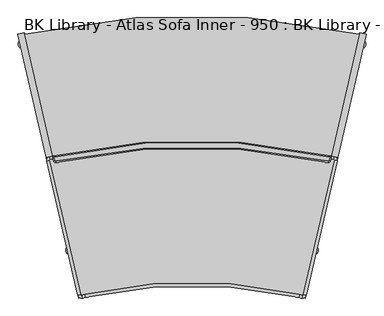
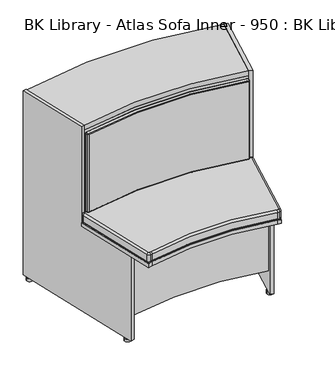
"""IFC4 building model written with IfcOpenShell, lengths in millimetres: furniture geometry, BK Library - Atlas Sofa Inner - 950 : BK Library - Atlas Sofa Inner - 950."""

from ifc_helpers import new_model, si_unit, point, frame, frame_2d, origin, origin_with_axes, place, context, project, spatial, polyline, circle_curve, ellipse_curve, trimmed, segment, composite_curve, outline, extrude, source, transform, mapped, element, save
from ifc_brep_helpers import plane_surface, cylinder_surface, revolved_surface, advanced_brep


def bk_library_atlas_sofa_inner_950_bk_library_atlas_sofa_inner_ff10e637(model_context):
    return source(origin(), model_context, "Body", "SolidModel", [
        extrude(outline(composite_curve([segment(trimmed(circle_curve(frame_2d((0.0, -1777.8812307)), 2148.52767), [point((-474.1962162, 317.663829))], [point((474.1962162, 317.663829))], False, "CARTESIAN"), True, "CONTINUOUS"), segment(polyline([(474.1962162, 317.663829), (394.6538473, -27.2840099)]), True, "CONTINUOUS"), segment(trimmed(circle_curve(frame_2d((0.0, -1738.7617261)), 1756.3905125), [point((394.6538473, -27.2840099))], [point((-394.6538473, -27.2840099))], True, "CARTESIAN"), True, "CONTINUOUS"), segment(polyline([(-394.6538473, -27.2840099), (-474.1962162, 317.663829)]), True, "CONTINUOUS")], self_intersect=False)), frame((0.0, 0.0, 925.6999998), z_axis=(0.0, 0.0, 1.0), x_axis=(1.0, 0.0, 0.0)), (0.0, 0.0, 1.0), 24.0),
        advanced_brep(
        [(-387.5289282, -41.0616278, 912.6999998), (-386.337373, -41.8193482, 912.6999998), (386.322412, -41.8102681, 912.6999998), (387.5138106, -41.053138, 912.6999998), (389.7114211, -31.2769641, 912.6999998), (388.9577264, -30.0825885, 912.6999998), (-388.967965, -30.0849192, 912.6999998), (-389.7217875, -31.2786982, 912.6999998), (-386.337373, -41.8193482, 512.6999998), (-387.5289282, -41.0616278, 512.6999998), (-389.7217875, -31.2786982, 512.6999998), (-388.967965, -30.0849192, 512.6999998), (388.9577264, -30.0825885, 512.6999998), (389.7114211, -31.2769641, 512.6999998), (387.5138106, -41.053138, 512.6999998), (386.322412, -41.8102681, 512.6999998), (-391.4320751, -41.9365244, 908.6999998), (-393.6249345, -32.1535948, 908.6999998), (-393.6249345, -32.1535948, 516.6999998), (-391.4320751, -41.9365244, 516.6999998), (-385.4742994, -45.7251264, 908.6999998), (-385.4742994, -45.7251264, 516.6999998), (385.4594302, -45.7160667, 908.6999998), (385.4594302, -45.7160667, 516.6999998), (391.416423, -41.9304159, 908.6999998), (391.416423, -41.9304159, 516.6999998), (393.6140335, -32.1542421, 908.6999998), (393.6140335, -32.1542421, 516.6999998), (-389.8558218, -26.1846999, 908.6999998), (389.8455598, -26.1823639, 908.6999998), (389.8455598, -26.1823639, 516.6999998), (-389.8558218, -26.1846999, 516.6999998)],
        [
            (0, 1, circle_curve(frame((-386.5531414, -40.8429036, 912.6999998), z_axis=(0.0, 0.0, 1.0), x_axis=(-0.9757867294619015, -0.21872416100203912, 0.0)), 1.0)),
            (1, 2, circle_curve(frame((0.0130662, -1790.2207372, 912.6999998), z_axis=(0.0, 0.0, -1.0), x_axis=(-0.21576840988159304, 0.9764445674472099, 0.0)), 1790.579258)),
            (2, 3, circle_curve(frame((386.5381575, -40.8338185, 912.6999998), z_axis=(0.0, 0.0, 1.0), x_axis=(-0.21574546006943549, -0.9764496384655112, 0.0)), 1.0)),
            (3, 4),
            (4, 5, circle_curve(frame((388.735768, -31.0576446, 912.6999998), z_axis=(0.0, 0.0, 1.0), x_axis=(0.9756530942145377, -0.21931949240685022, 0.0)), 1.0)),
            (5, 6, circle_curve(frame((0.0, -1738.7617261, 912.6999998), z_axis=(0.0, 0.0, 1.0), x_axis=(0.2219583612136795, 0.9750561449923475, 0.0)), 1752.3905125)),
            (6, 7, circle_curve(frame((-388.7460008, -31.059974, 912.6999998), z_axis=(0.0, 0.0, 1.0), x_axis=(-0.22196420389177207, 0.9750548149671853, 0.0)), 1.0)),
            (7, 0),
            (8, 9, circle_curve(frame((-386.5531414, -40.8429036, 512.6999998), z_axis=(0.0, 0.0, -1.0), x_axis=(-0.9757867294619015, -0.21872416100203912, 0.0)), 1.0)),
            (9, 10),
            (10, 11, circle_curve(frame((-388.7460008, -31.059974, 512.6999998), z_axis=(0.0, 0.0, -1.0), x_axis=(-0.22196420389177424, 0.9750548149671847, 0.0)), 1.0)),
            (11, 12, circle_curve(frame((0.0, -1738.7617261, 512.6999998), z_axis=(0.0, 0.0, -1.0), x_axis=(0.2219583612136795, 0.9750561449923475, 0.0)), 1752.3905125)),
            (12, 13, circle_curve(frame((388.735768, -31.0576446, 512.6999998), z_axis=(0.0, 0.0, -1.0), x_axis=(0.9756530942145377, -0.21931949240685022, 0.0)), 1.0)),
            (13, 14),
            (14, 15, circle_curve(frame((386.5381575, -40.8338185, 512.6999998), z_axis=(0.0, 0.0, -1.0), x_axis=(-0.21574546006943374, -0.9764496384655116, 0.0)), 1.0)),
            (15, 8, circle_curve(frame((0.0130662, -1790.2207372, 512.6999998), z_axis=(0.0, 0.0, 1.0), x_axis=(-0.21576840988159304, 0.9764445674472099, 0.0)), 1790.579258)),
            (16, 17),
            (17, 18),
            (18, 19),
            (19, 16),
            (20, 16, circle_curve(frame((-386.5531414, -40.8429036, 908.6999998), z_axis=(0.0, 0.0, -1.0), x_axis=(1.0, 0.0, 0.0)), 5.0)),
            (19, 21, circle_curve(frame((-386.5531414, -40.8429036, 516.6999998), z_axis=(0.0, 0.0, 1.0), x_axis=(1.0, 0.0, 0.0)), 5.0)),
            (21, 20),
            (22, 20, circle_curve(frame((0.0130662, -1790.2207372, 908.6999998), z_axis=(0.0, 0.0, 1.0), x_axis=(1.0, 0.0, 0.0)), 1786.579258)),
            (21, 23, circle_curve(frame((0.0130662, -1790.2207372, 516.6999998), z_axis=(0.0, 0.0, -1.0), x_axis=(1.0, 0.0, 0.0)), 1786.579258)),
            (23, 22),
            (24, 22, circle_curve(frame((386.5381575, -40.8338185, 908.6999998), z_axis=(0.0, 0.0, -1.0), x_axis=(1.0, 0.0, 0.0)), 5.0)),
            (23, 25, circle_curve(frame((386.5381575, -40.8338185, 516.6999998), z_axis=(0.0, 0.0, 1.0), x_axis=(1.0, 0.0, 0.0)), 5.0)),
            (25, 24),
            (26, 24),
            (25, 27),
            (27, 26),
            (28, 29, circle_curve(frame((0.0, -1738.7617261, 908.6999998), z_axis=(0.0, 0.0, -1.0), x_axis=(1.0, 0.0, 0.0)), 1756.3905125)),
            (29, 30),
            (30, 31, circle_curve(frame((0.0, -1738.7617261, 516.6999998), z_axis=(0.0, 0.0, 1.0), x_axis=(1.0, 0.0, 0.0)), 1756.3905125)),
            (31, 28),
            (17, 28, circle_curve(frame((-388.7460008, -31.059974, 908.6999998), z_axis=(0.0, 0.0, -1.0), x_axis=(1.0, 0.0, 0.0)), 5.0)),
            (31, 18, circle_curve(frame((-388.7460008, -31.059974, 516.6999998), z_axis=(0.0, 0.0, 1.0), x_axis=(1.0, 0.0, 0.0)), 5.0)),
            (29, 26, circle_curve(frame((388.735768, -31.0576446, 908.6999998), z_axis=(0.0, 0.0, -1.0), x_axis=(1.0, 0.0, 0.0)), 5.0)),
            (27, 30, circle_curve(frame((388.735768, -31.0576446, 516.6999998), z_axis=(0.0, 0.0, 1.0), x_axis=(1.0, 0.0, 0.0)), 5.0)),
            (20, 1, circle_curve(frame((-386.337373, -41.8193482, 908.6999998), z_axis=(-0.9764445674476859, -0.21576840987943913, 0.0), x_axis=(-0.21576840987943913, 0.9764445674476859, 0.0)), 4.0)),
            (0, 16, circle_curve(frame((-387.5289282, -41.0616278, 908.6999998), z_axis=(0.21872416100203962, -0.9757867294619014, 0.0), x_axis=(0.9757867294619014, 0.21872416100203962, 0.0)), 4.0)),
            (22, 2, circle_curve(frame((386.322412, -41.8102681, 908.6999998), z_axis=(-0.9764496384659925, 0.21574546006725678, 0.0), x_axis=(0.21574546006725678, 0.9764496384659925, 0.0)), 4.0)),
            (24, 3, circle_curve(frame((387.5138106, -41.053138, 908.6999998), z_axis=(-0.21931949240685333, -0.975653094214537, 0.0), x_axis=(-0.975653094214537, 0.21931949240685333, 0.0)), 4.0)),
            (26, 4, circle_curve(frame((389.7114211, -31.2769641, 908.6999998), z_axis=(-0.2193194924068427, -0.9756530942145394, 0.0), x_axis=(-0.9756530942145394, 0.2193194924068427, 0.0)), 4.0)),
            (29, 5, circle_curve(frame((388.9577264, -30.0825885, 908.6999998), z_axis=(0.9750561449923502, -0.2219583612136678, 0.0), x_axis=(-0.2219583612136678, -0.9750561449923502, 0.0)), 4.0)),
            (28, 6, circle_curve(frame((-388.967965, -30.0849192, 908.6999998), z_axis=(0.9750548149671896, 0.22196420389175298, 0.0), x_axis=(0.22196420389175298, -0.9750548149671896, 0.0)), 4.0)),
            (17, 7, circle_curve(frame((-389.7217875, -31.2786982, 908.6999998), z_axis=(-0.2187241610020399, 0.9757867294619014, 0.0), x_axis=(0.9757867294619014, 0.2187241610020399, 0.0)), 4.0)),
            (8, 21, circle_curve(frame((-386.337373, -41.8193482, 516.6999998), z_axis=(-0.9764445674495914, -0.21576840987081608, 0.0), x_axis=(-0.21576840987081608, 0.9764445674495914, 0.0)), 4.0)),
            (19, 9, circle_curve(frame((-387.5289282, -41.0616278, 516.6999998), z_axis=(0.21872416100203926, -0.9757867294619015, 0.0), x_axis=(0.9757867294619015, 0.21872416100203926, 0.0)), 4.0)),
            (15, 23, circle_curve(frame((386.322412, -41.8102681, 516.6999998), z_axis=(-0.9764496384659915, 0.2157454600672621, 0.0), x_axis=(0.2157454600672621, 0.9764496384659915, 0.0)), 4.0)),
            (14, 25, circle_curve(frame((387.5138106, -41.053138, 516.6999998), z_axis=(-0.21931949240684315, -0.9756530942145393, 0.0), x_axis=(-0.9756530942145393, 0.21931949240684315, 0.0)), 4.0)),
            (13, 27, circle_curve(frame((389.7114211, -31.2769641, 516.6999998), z_axis=(-0.21931949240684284, -0.9756530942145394, 0.0), x_axis=(-0.9756530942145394, 0.21931949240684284, 0.0)), 4.0)),
            (12, 30, circle_curve(frame((388.9577264, -30.0825885, 516.6999998), z_axis=(0.9750561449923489, -0.22195836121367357, 0.0), x_axis=(-0.22195836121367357, -0.9750561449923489, 0.0)), 4.0)),
            (11, 31, circle_curve(frame((-388.967965, -30.0849192, 516.6999998), z_axis=(0.9750548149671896, 0.22196420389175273, 0.0), x_axis=(0.22196420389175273, -0.9750548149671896, 0.0)), 4.0)),
            (10, 18, circle_curve(frame((-389.7217875, -31.2786982, 516.6999998), z_axis=(-0.21872416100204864, 0.9757867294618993, 0.0), x_axis=(0.9757867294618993, 0.21872416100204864, 0.0)), 4.0)),
        ],
        [
            plane_surface(frame((-383.7460008, -31.059974, 912.6999998), z_axis=(0.0, 0.0, 1.0), x_axis=(0.0, 1.0, 0.0))),
            plane_surface(frame((-383.7460008, -31.059974, 512.6999998), z_axis=(0.0, 0.0, -1.0), x_axis=(0.0, -1.0, 0.0))),
            plane_surface(frame((-393.6249345, -32.1535948, 912.6999998), z_axis=(-0.9757867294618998, -0.21872416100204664, 0.0), x_axis=(0.0, 0.0, -1.0))),
            cylinder_surface(frame((-386.5531414, -40.8429036, 512.6999998), z_axis=(0.0, 0.0, 1.0), x_axis=(1.0, 0.0, 0.0)), 5.0),
            revolved_surface(polyline([(1786.5923242, -1790.2207372, 516.6999998), (1786.5923242, -1790.2207372, 908.6999998)]), (0.0130662, -1790.2207372, 512.6999998), (0.0, 0.0, -1.0)),
            cylinder_surface(frame((386.5381575, -40.8338185, 512.6999998), z_axis=(0.0, 0.0, 1.0), x_axis=(1.0, 0.0, 0.0)), 5.0),
            plane_surface(frame((391.416423, -41.9304159, 912.6999998), z_axis=(0.9756530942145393, -0.2193194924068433, 0.0), x_axis=(0.0, 0.0, -1.0))),
            cylinder_surface(frame((0.0, -1738.7617261, 512.6999998), z_axis=(0.0, 0.0, 1.0), x_axis=(1.0, 0.0, 0.0)), 1756.3905125),
            cylinder_surface(frame((-388.7460008, -31.059974, 512.6999998), z_axis=(0.0, 0.0, 1.0), x_axis=(1.0, 0.0, 0.0)), 5.0),
            cylinder_surface(frame((388.735768, -31.0576446, 512.6999998), z_axis=(0.0, 0.0, 1.0), x_axis=(1.0, 0.0, 0.0)), 5.0),
            revolved_surface(trimmed(ellipse_curve(frame((-387.5289282, -41.0616278, 908.6999998), z_axis=(-0.21872416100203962, 0.9757867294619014, 0.0), x_axis=(0.9757867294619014, 0.21872416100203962, 0.0)), 4.0, 4.0), [point((-391.4320751, -41.9365244, 908.6999998))], [point((-387.5289282, -41.0616278, 912.6999998))], True, "CARTESIAN"), (-386.5531414, -40.8429036, 0.0), (0.0, 0.0, 1.0)),
            revolved_surface(trimmed(ellipse_curve(frame((-386.337373, -41.8193482, 908.6999998), z_axis=(-0.9764445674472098, -0.21576840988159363, 0.0), x_axis=(-0.21576840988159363, 0.9764445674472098, 0.0)), 4.0, 4.0), [point((-385.4742994, -45.7251264, 908.6999998))], [point((-386.337373, -41.8193482, 912.6999998))], True, "CARTESIAN"), (0.0130662, -1790.2207372, 0.0), (0.0, 0.0, -1.0)),
            revolved_surface(trimmed(ellipse_curve(frame((386.322412, -41.8102681, 908.6999998), z_axis=(-0.9764496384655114, 0.2157454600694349, 0.0), x_axis=(0.2157454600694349, 0.9764496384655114, 0.0)), 4.0, 4.0), [point((385.4594302, -45.7160667, 908.6999998))], [point((386.322412, -41.8102681, 912.6999998))], True, "CARTESIAN"), (386.5381575, -40.8338185, 0.0), (0.0, 0.0, 1.0)),
            cylinder_surface(frame((387.5138106, -41.053138, 908.6999998), z_axis=(0.2193194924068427, 0.9756530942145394, 0.0), x_axis=(-0.9756530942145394, 0.2193194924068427, 0.0)), 4.0),
            revolved_surface(trimmed(ellipse_curve(frame((389.7114211, -31.2769641, 908.6999998), z_axis=(-0.21931949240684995, -0.9756530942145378, 0.0), x_axis=(-0.9756530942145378, 0.21931949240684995, 0.0)), 4.0, 4.0), [point((393.6140335, -32.1542421, 908.6999998))], [point((389.7114211, -31.2769641, 912.6999998))], True, "CARTESIAN"), (388.735768, -31.0576446, 0.0), (0.0, 0.0, 1.0)),
            revolved_surface(trimmed(ellipse_curve(frame((388.9577264, -30.0825885, 908.6999998), z_axis=(0.9750561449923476, -0.2219583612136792, 0.0), x_axis=(-0.2219583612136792, -0.9750561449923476, 0.0)), 4.0, 4.0), [point((389.8455598, -26.1823639, 908.6999998))], [point((388.9577264, -30.0825885, 912.6999998))], True, "CARTESIAN"), (0.0, -1738.7617261, 0.0), (0.0, 0.0, 1.0)),
            revolved_surface(trimmed(ellipse_curve(frame((-388.967965, -30.0849192, 908.6999998), z_axis=(0.9750548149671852, 0.22196420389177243, 0.0), x_axis=(0.22196420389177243, -0.9750548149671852, 0.0)), 4.0, 4.0), [point((-389.8558218, -26.1846999, 908.6999998))], [point((-388.967965, -30.0849192, 912.6999998))], True, "CARTESIAN"), (-388.7460008, -31.059974, 0.0), (0.0, 0.0, 1.0)),
            cylinder_surface(frame((-389.7217875, -31.2786982, 908.6999998), z_axis=(0.218724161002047, -0.9757867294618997, 0.0), x_axis=(0.9757867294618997, 0.218724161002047, 0.0)), 4.0),
            revolved_surface(trimmed(ellipse_curve(frame((-387.5289282, -41.0616278, 516.6999998), z_axis=(-0.21872416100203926, 0.9757867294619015, 0.0), x_axis=(0.9757867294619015, 0.21872416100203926, 0.0)), 4.0, 4.0), [point((-387.5289282, -41.0616278, 512.6999998))], [point((-391.4320751, -41.9365244, 516.6999998))], True, "CARTESIAN"), (-386.5531414, -40.8429036, 1425.3999996), (0.0, 0.0, 1.0)),
            revolved_surface(trimmed(ellipse_curve(frame((-386.337373, -41.8193482, 516.6999998), z_axis=(-0.9764445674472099, -0.2157684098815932, 0.0), x_axis=(-0.2157684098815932, 0.9764445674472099, 0.0)), 4.0, 4.0), [point((-386.337373, -41.8193482, 512.6999998))], [point((-385.4742994, -45.7251264, 516.6999998))], True, "CARTESIAN"), (0.0130662, -1790.2207372, 1425.3999996), (0.0, 0.0, -1.0)),
            revolved_surface(trimmed(ellipse_curve(frame((386.322412, -41.8102681, 516.6999998), z_axis=(-0.9764496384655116, 0.2157454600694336, 0.0), x_axis=(0.2157454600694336, 0.9764496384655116, 0.0)), 4.0, 4.0), [point((386.322412, -41.8102681, 512.6999998))], [point((385.4594302, -45.7160667, 516.6999998))], True, "CARTESIAN"), (386.5381575, -40.8338185, 1425.3999996), (0.0, 0.0, 1.0)),
            cylinder_surface(frame((387.5138106, -41.053138, 516.6999998), z_axis=(0.21931949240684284, 0.9756530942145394, 0.0), x_axis=(-0.9756530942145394, 0.21931949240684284, 0.0)), 4.0),
            revolved_surface(trimmed(ellipse_curve(frame((389.7114211, -31.2769641, 516.6999998), z_axis=(-0.2193194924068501, -0.9756530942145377, 0.0), x_axis=(-0.9756530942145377, 0.2193194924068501, 0.0)), 4.0, 4.0), [point((389.7114211, -31.2769641, 512.6999998))], [point((393.6140335, -32.1542421, 516.6999998))], True, "CARTESIAN"), (388.735768, -31.0576446, 1425.3999996), (0.0, 0.0, 1.0)),
            revolved_surface(trimmed(ellipse_curve(frame((388.9577264, -30.0825885, 516.6999998), z_axis=(0.9750561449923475, -0.22195836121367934, 0.0), x_axis=(-0.22195836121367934, -0.9750561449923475, 0.0)), 4.0, 4.0), [point((388.9577264, -30.0825885, 512.6999998))], [point((389.8455598, -26.1823639, 516.6999998))], True, "CARTESIAN"), (0.0, -1738.7617261, 1425.3999996), (0.0, 0.0, 1.0)),
            revolved_surface(trimmed(ellipse_curve(frame((-388.967965, -30.0849192, 516.6999998), z_axis=(0.9750548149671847, 0.22196420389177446, 0.0), x_axis=(0.22196420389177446, -0.9750548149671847, 0.0)), 4.0, 4.0), [point((-388.967965, -30.0849192, 512.6999998))], [point((-389.8558218, -26.1846999, 516.6999998))], True, "CARTESIAN"), (-388.7460008, -31.059974, 1425.3999996), (0.0, 0.0, 1.0)),
            cylinder_surface(frame((-389.7217875, -31.2786982, 516.6999998), z_axis=(0.2187241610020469, -0.9757867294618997, 0.0), x_axis=(0.9757867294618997, 0.2187241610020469, 0.0)), 4.0),
        ],
        [
            (0, [[1, 2, 3, 4, 5, 6, 7, 8]]),
            (1, [[9, 10, 11, 12, 13, 14, 15, 16]]),
            (2, [[17, 18, 19, 20]]),
            (3, [[21, -20, 22, 23]]),
            (4, [[24, -23, 25, 26]]),
            (5, [[27, -26, 28, 29]]),
            (6, [[30, -29, 31, 32]]),
            (7, [[33, 34, 35, 36]]),
            (8, [[37, -36, 38, -18]]),
            (9, [[39, -32, 40, -34]]),
            (10, [[41, -1, 42, -21]]),
            (11, [[-41, -24, 43, -2]]),
            (12, [[-43, -27, 44, -3]]),
            (13, [[-44, -30, 45, -4]]),
            (14, [[-45, -39, 46, -5]]),
            (15, [[-46, -33, 47, -6]]),
            (16, [[-47, -37, 48, -7]]),
            (17, [[-42, -8, -48, -17]]),
            (18, [[49, -22, 50, -9]]),
            (19, [[-49, -16, 51, -25]]),
            (20, [[-51, -15, 52, -28]]),
            (21, [[-52, -14, 53, -31]]),
            (22, [[-53, -13, 54, -40]]),
            (23, [[-54, -12, 55, -35]]),
            (24, [[-55, -11, 56, -38]]),
            (25, [[-50, -19, -56, -10]]),
        ],
    ),
        advanced_brep(
        [(-314.0881267, -421.1743563, 512.6999998), (-312.8890018, -421.9240893, 512.6999998), (-304.1191415, -419.9018257, 512.6999998), (304.1191415, -419.9018257, 512.6999998), (312.8890018, -421.9240893, 512.6999998), (314.0881267, -421.1743563, 512.6999998), (402.151177, -39.2752587, 512.6999998), (401.401444, -38.0761338, 512.6999998), (392.6315837, -36.0538702, 512.6999998), (-392.6315837, -36.0538702, 512.6999998), (-401.401444, -38.0761338, 512.6999998), (-402.151177, -39.2752587, 512.6999998), (-312.8890018, -421.9240893, 462.6999998), (-314.0881267, -421.1743563, 462.6999998), (-402.151177, -39.2752587, 462.6999998), (-401.401444, -38.0761338, 462.6999998), (-392.6315837, -36.0538702, 462.6999998), (392.6315837, -36.0538702, 462.6999998), (401.401444, -38.0761338, 462.6999998), (402.151177, -39.2752587, 462.6999998), (314.0881267, -421.1743563, 462.6999998), (312.8890018, -421.9240893, 462.6999998), (304.1191415, -419.9018257, 462.6999998), (-304.1191415, -419.9018257, 462.6999998), (-310.8667382, -430.6939496, 503.6999998), (-322.857987, -423.1966199, 503.6999998), (-322.857987, -423.1966199, 471.6999998), (-310.8667382, -430.6939496, 471.6999998), (-302.0968779, -428.671686, 503.6999998), (-302.0968779, -428.671686, 471.6999998), (302.0968779, -428.671686, 503.6999998), (302.0968779, -428.671686, 471.6999998), (310.8667382, -430.6939496, 503.6999998), (310.8667382, -430.6939496, 471.6999998), (322.857987, -423.1966199, 503.6999998), (322.857987, -423.1966199, 471.6999998), (410.9210373, -41.2975223, 503.6999998), (410.9210373, -41.2975223, 471.6999998), (403.4237077, -29.3062735, 503.6999998), (403.4237077, -29.3062735, 471.6999998), (394.6538473, -27.2840099, 503.6999998), (394.6538473, -27.2840099, 471.6999998), (-394.6538473, -27.2840099, 503.6999998), (-394.6538473, -27.2840099, 471.6999998), (-403.4237077, -29.3062735, 503.6999998), (-403.4237077, -29.3062735, 471.6999998), (-410.9210373, -41.2975223, 503.6999998), (-410.9210373, -41.2975223, 471.6999998)],
        [
            (0, 1, circle_curve(frame((-313.1136978, -420.9496603, 512.6999998), z_axis=(0.0, 0.0, 1.0), x_axis=(-0.9744289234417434, -0.22469595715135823, 0.0)), 1.0)),
            (1, 2),
            (2, 3, circle_curve(frame((0.0, -1738.7617261, 512.6999998), z_axis=(0.0, 0.0, -1.0), x_axis=(-0.22469595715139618, 0.9744289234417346, 0.0)), 1353.4695746)),
            (3, 4),
            (4, 5, circle_curve(frame((313.1136978, -420.9496603, 512.6999998), z_axis=(0.0, 0.0, 1.0), x_axis=(-0.22469595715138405, -0.9744289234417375, 0.0)), 1.0)),
            (5, 6),
            (6, 7, circle_curve(frame((401.1767481, -39.0505627, 512.6999998), z_axis=(0.0, 0.0, 1.0), x_axis=(0.9744289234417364, -0.22469595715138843, 0.0)), 1.0)),
            (7, 8),
            (8, 9, circle_curve(frame((0.0, -1738.7617261, 512.6999998), z_axis=(0.0, 0.0, 1.0), x_axis=(0.22469595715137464, 0.9744289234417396, 0.0)), 1747.3905125)),
            (9, 10),
            (10, 11, circle_curve(frame((-401.1767481, -39.0505627, 512.6999998), z_axis=(0.0, 0.0, 1.0), x_axis=(-0.22469595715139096, 0.9744289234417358, 0.0)), 1.0)),
            (11, 0),
            (12, 13, circle_curve(frame((-313.1136978, -420.9496603, 462.6999998), z_axis=(0.0, 0.0, -1.0), x_axis=(-0.9744289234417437, -0.22469595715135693, 0.0)), 1.0)),
            (13, 14),
            (14, 15, circle_curve(frame((-401.1767481, -39.0505627, 462.6999998), z_axis=(0.0, 0.0, -1.0), x_axis=(-0.22469595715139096, 0.9744289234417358, 0.0)), 1.0)),
            (15, 16),
            (16, 17, circle_curve(frame((0.0, -1738.7617261, 462.6999998), z_axis=(0.0, 0.0, -1.0), x_axis=(0.22469595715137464, 0.9744289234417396, 0.0)), 1747.3905125)),
            (17, 18),
            (18, 19, circle_curve(frame((401.1767481, -39.0505627, 462.6999998), z_axis=(0.0, 0.0, -1.0), x_axis=(0.9744289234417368, -0.2246959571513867, 0.0)), 1.0)),
            (19, 20),
            (20, 21, circle_curve(frame((313.1136978, -420.9496603, 462.6999998), z_axis=(0.0, 0.0, -1.0), x_axis=(-0.22469595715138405, -0.9744289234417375, 0.0)), 1.0)),
            (21, 22),
            (22, 23, circle_curve(frame((0.0, -1738.7617261, 462.6999998), z_axis=(0.0, 0.0, 1.0), x_axis=(-0.22469595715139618, 0.9744289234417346, 0.0)), 1353.4695746)),
            (23, 12),
            (24, 25, circle_curve(frame((-313.1136978, -420.9496603, 503.6999998), z_axis=(0.0, 0.0, -1.0), x_axis=(1.0, 0.0, 0.0)), 10.0)),
            (25, 26),
            (26, 27, circle_curve(frame((-313.1136978, -420.9496603, 471.6999998), z_axis=(0.0, 0.0, 1.0), x_axis=(1.0, 0.0, 0.0)), 10.0)),
            (27, 24),
            (28, 24),
            (27, 29),
            (29, 28),
            (30, 28, circle_curve(frame((0.0, -1738.7617261, 503.6999998), z_axis=(0.0, 0.0, 1.0), x_axis=(1.0, 0.0, 0.0)), 1344.4695746)),
            (29, 31, circle_curve(frame((0.0, -1738.7617261, 471.6999998), z_axis=(0.0, 0.0, -1.0), x_axis=(1.0, 0.0, 0.0)), 1344.4695746)),
            (31, 30),
            (32, 30),
            (31, 33),
            (33, 32),
            (34, 32, circle_curve(frame((313.1136978, -420.9496603, 503.6999998), z_axis=(0.0, 0.0, -1.0), x_axis=(1.0, 0.0, 0.0)), 10.0)),
            (33, 35, circle_curve(frame((313.1136978, -420.9496603, 471.6999998), z_axis=(0.0, 0.0, 1.0), x_axis=(1.0, 0.0, 0.0)), 10.0)),
            (35, 34),
            (36, 34),
            (35, 37),
            (37, 36),
            (38, 36, circle_curve(frame((401.1767481, -39.0505627, 503.6999998), z_axis=(0.0, 0.0, -1.0), x_axis=(1.0, 0.0, 0.0)), 10.0)),
            (37, 39, circle_curve(frame((401.1767481, -39.0505627, 471.6999998), z_axis=(0.0, 0.0, 1.0), x_axis=(1.0, 0.0, 0.0)), 10.0)),
            (39, 38),
            (40, 38),
            (39, 41),
            (41, 40),
            (42, 40, circle_curve(frame((0.0, -1738.7617261, 503.6999998), z_axis=(0.0, 0.0, -1.0), x_axis=(1.0, 0.0, 0.0)), 1756.3905125)),
            (41, 43, circle_curve(frame((0.0, -1738.7617261, 471.6999998), z_axis=(0.0, 0.0, 1.0), x_axis=(1.0, 0.0, 0.0)), 1756.3905125)),
            (43, 42),
            (44, 42),
            (43, 45),
            (45, 44),
            (46, 44, circle_curve(frame((-401.1767481, -39.0505627, 503.6999998), z_axis=(0.0, 0.0, -1.0), x_axis=(1.0, 0.0, 0.0)), 10.0)),
            (45, 47, circle_curve(frame((-401.1767481, -39.0505627, 471.6999998), z_axis=(0.0, 0.0, 1.0), x_axis=(1.0, 0.0, 0.0)), 10.0)),
            (47, 46),
            (25, 46),
            (47, 26),
            (24, 1, circle_curve(frame((-312.8890018, -421.9240893, 503.6999998), z_axis=(-0.9744289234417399, -0.22469595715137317, 0.0), x_axis=(-0.22469595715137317, 0.9744289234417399, 0.0)), 9.0)),
            (0, 25, circle_curve(frame((-314.0881267, -421.1743563, 503.6999998), z_axis=(0.2246959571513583, -0.9744289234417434, 0.0), x_axis=(0.9744289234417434, 0.2246959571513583, 0.0)), 9.0)),
            (28, 2, circle_curve(frame((-304.1191415, -419.9018257, 503.6999998), z_axis=(-0.9744289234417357, -0.22469595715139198, 0.0), x_axis=(-0.22469595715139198, 0.9744289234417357, 0.0)), 9.0)),
            (30, 3, circle_curve(frame((304.1191415, -419.9018257, 503.6999998), z_axis=(-0.9744289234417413, 0.2246959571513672, 0.0), x_axis=(0.2246959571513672, 0.9744289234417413, 0.0)), 9.0)),
            (32, 4, circle_curve(frame((312.8890018, -421.9240893, 503.6999998), z_axis=(-0.9744289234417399, 0.2246959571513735, 0.0), x_axis=(0.2246959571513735, 0.9744289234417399, 0.0)), 9.0)),
            (34, 5, circle_curve(frame((314.0881267, -421.1743563, 503.6999998), z_axis=(-0.22469595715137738, -0.974428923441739, 0.0), x_axis=(-0.974428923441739, 0.22469595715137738, 0.0)), 9.0)),
            (36, 6, circle_curve(frame((402.151177, -39.2752587, 503.6999998), z_axis=(-0.22469595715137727, -0.974428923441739, 0.0), x_axis=(-0.974428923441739, 0.22469595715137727, 0.0)), 9.0)),
            (38, 7, circle_curve(frame((401.401444, -38.0761338, 503.6999998), z_axis=(0.9744289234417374, -0.22469595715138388, 0.0), x_axis=(-0.22469595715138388, -0.9744289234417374, 0.0)), 9.0)),
            (40, 8, circle_curve(frame((392.6315837, -36.0538702, 503.6999998), z_axis=(0.9744289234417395, -0.22469595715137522, 0.0), x_axis=(-0.22469595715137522, -0.9744289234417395, 0.0)), 9.0)),
            (42, 9, circle_curve(frame((-392.6315837, -36.0538702, 503.6999998), z_axis=(0.974428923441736, 0.22469595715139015, 0.0), x_axis=(0.22469595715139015, -0.974428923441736, 0.0)), 9.0)),
            (44, 10, circle_curve(frame((-401.401444, -38.0761338, 503.6999998), z_axis=(0.974428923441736, 0.2246959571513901, 0.0), x_axis=(0.2246959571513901, -0.974428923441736, 0.0)), 9.0)),
            (46, 11, circle_curve(frame((-402.151177, -39.2752587, 503.6999998), z_axis=(-0.2246959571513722, 0.9744289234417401, 0.0), x_axis=(0.9744289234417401, 0.2246959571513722, 0.0)), 9.0)),
            (12, 27, circle_curve(frame((-312.8890018, -421.9240893, 471.6999998), z_axis=(-0.9744289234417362, -0.22469595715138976, 0.0), x_axis=(-0.22469595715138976, 0.9744289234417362, 0.0)), 9.0)),
            (26, 13, circle_curve(frame((-314.0881267, -421.1743563, 471.6999998), z_axis=(0.2246959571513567, -0.9744289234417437, 0.0), x_axis=(0.9744289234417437, 0.2246959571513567, 0.0)), 9.0)),
            (23, 29, circle_curve(frame((-304.1191415, -419.9018257, 471.6999998), z_axis=(-0.9744289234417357, -0.22469595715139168, 0.0), x_axis=(-0.22469595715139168, 0.9744289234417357, 0.0)), 9.0)),
            (22, 31, circle_curve(frame((304.1191415, -419.9018257, 471.6999998), z_axis=(-0.9744289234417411, 0.22469595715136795, 0.0), x_axis=(0.22469595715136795, 0.9744289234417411, 0.0)), 9.0)),
            (21, 33, circle_curve(frame((312.8890018, -421.9240893, 471.6999998), z_axis=(-0.9744289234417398, 0.22469595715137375, 0.0), x_axis=(0.22469595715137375, 0.9744289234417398, 0.0)), 9.0)),
            (20, 35, circle_curve(frame((314.0881267, -421.1743563, 471.6999998), z_axis=(-0.22469595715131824, -0.9744289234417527, 0.0), x_axis=(-0.9744289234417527, 0.22469595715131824, 0.0)), 9.0)),
            (19, 37, circle_curve(frame((402.151177, -39.2752587, 471.6999998), z_axis=(-0.22469595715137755, -0.9744289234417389, 0.0), x_axis=(-0.9744289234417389, 0.22469595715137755, 0.0)), 9.0)),
            (18, 39, circle_curve(frame((401.401444, -38.0761338, 471.6999998), z_axis=(0.9744289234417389, -0.2246959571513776, 0.0), x_axis=(-0.2246959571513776, -0.9744289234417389, 0.0)), 9.0)),
            (17, 41, circle_curve(frame((392.6315837, -36.0538702, 471.6999998), z_axis=(0.9744289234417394, -0.2246959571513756, 0.0), x_axis=(-0.2246959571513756, -0.9744289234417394, 0.0)), 9.0)),
            (16, 43, circle_curve(frame((-392.6315837, -36.0538702, 471.6999998), z_axis=(0.974428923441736, 0.22469595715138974, 0.0), x_axis=(0.22469595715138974, -0.974428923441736, 0.0)), 9.0)),
            (15, 45, circle_curve(frame((-401.401444, -38.0761338, 471.6999998), z_axis=(0.9744289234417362, 0.2246959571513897, 0.0), x_axis=(0.2246959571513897, -0.9744289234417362, 0.0)), 9.0)),
            (14, 47, circle_curve(frame((-402.151177, -39.2752587, 471.6999998), z_axis=(-0.22469595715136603, 0.9744289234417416, 0.0), x_axis=(0.9744289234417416, 0.22469595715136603, 0.0)), 9.0)),
        ],
        [
            plane_surface(frame((-303.1136978, -420.9496603, 512.6999998), z_axis=(0.0, 0.0, 1.0), x_axis=(0.0, 1.0, 0.0))),
            plane_surface(frame((-303.1136978, -420.9496603, 462.6999998), z_axis=(0.0, 0.0, -1.0), x_axis=(0.0, -1.0, 0.0))),
            cylinder_surface(frame((-313.1136978, -420.9496603, 462.6999998), z_axis=(0.0, 0.0, 1.0), x_axis=(1.0, 0.0, 0.0)), 10.0),
            plane_surface(frame((-310.8667382, -430.6939496, 512.6999998), z_axis=(0.2246959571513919, -0.9744289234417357, 0.0), x_axis=(0.0, 0.0, -1.0))),
            revolved_surface(polyline([(1344.4695746, -1738.7617261, 471.6999998), (1344.4695746, -1738.7617261, 503.6999998)]), (0.0, -1738.7617261, 462.6999998), (0.0, 0.0, -1.0)),
            plane_surface(frame((302.0968779, -428.671686, 512.6999998), z_axis=(-0.22469595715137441, -0.9744289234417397, 0.0), x_axis=(0.0, 0.0, -1.0))),
            cylinder_surface(frame((313.1136978, -420.9496603, 462.6999998), z_axis=(0.0, 0.0, 1.0), x_axis=(1.0, 0.0, 0.0)), 10.0),
            plane_surface(frame((322.857987, -423.1966199, 512.6999998), z_axis=(0.9744289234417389, -0.22469595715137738, 0.0), x_axis=(0.0, 0.0, -1.0))),
            cylinder_surface(frame((401.1767481, -39.0505627, 462.6999998), z_axis=(0.0, 0.0, 1.0), x_axis=(1.0, 0.0, 0.0)), 10.0),
            plane_surface(frame((403.4237077, -29.3062735, 512.6999998), z_axis=(0.22469595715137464, 0.9744289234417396, 0.0), x_axis=(0.0, 0.0, -1.0))),
            cylinder_surface(frame((0.0, -1738.7617261, 462.6999998), z_axis=(0.0, 0.0, 1.0), x_axis=(1.0, 0.0, 0.0)), 1756.3905125),
            plane_surface(frame((-394.6538473, -27.2840099, 512.6999998), z_axis=(-0.22469595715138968, 0.9744289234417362, 0.0), x_axis=(0.0, 0.0, -1.0))),
            cylinder_surface(frame((-401.1767481, -39.0505627, 462.6999998), z_axis=(0.0, 0.0, 1.0), x_axis=(1.0, 0.0, 0.0)), 10.0),
            plane_surface(frame((-410.9210373, -41.2975223, 512.6999998), z_axis=(-0.974428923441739, -0.22469595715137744, 0.0), x_axis=(0.0, 0.0, -1.0))),
            revolved_surface(trimmed(ellipse_curve(frame((-314.0881267, -421.1743563, 503.6999998), z_axis=(-0.2246959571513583, 0.9744289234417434, 0.0), x_axis=(0.9744289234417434, 0.2246959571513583, 0.0)), 9.0, 9.0), [point((-322.857987, -423.1966199, 503.6999998))], [point((-314.0881267, -421.1743563, 512.6999998))], True, "CARTESIAN"), (-313.1136978, -420.9496603, 0.0), (0.0, 0.0, 1.0)),
            cylinder_surface(frame((-312.8890018, -421.9240893, 503.6999998), z_axis=(0.9744289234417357, 0.22469595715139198, 0.0), x_axis=(-0.22469595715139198, 0.9744289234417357, 0.0)), 9.0),
            revolved_surface(trimmed(ellipse_curve(frame((-304.1191415, -419.9018257, 503.6999998), z_axis=(-0.9744289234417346, -0.22469595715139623, 0.0), x_axis=(-0.22469595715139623, 0.9744289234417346, 0.0)), 9.0, 9.0), [point((-302.0968779, -428.671686, 503.6999998))], [point((-304.1191415, -419.9018257, 512.6999998))], True, "CARTESIAN"), (0.0, -1738.7617261, 0.0), (0.0, 0.0, -1.0)),
            cylinder_surface(frame((304.1191415, -419.9018257, 503.6999998), z_axis=(0.9744289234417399, -0.2246959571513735, 0.0), x_axis=(0.2246959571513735, 0.9744289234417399, 0.0)), 9.0),
            revolved_surface(trimmed(ellipse_curve(frame((312.8890018, -421.9240893, 503.6999998), z_axis=(-0.9744289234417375, 0.22469595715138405, 0.0), x_axis=(0.22469595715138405, 0.9744289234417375, 0.0)), 9.0, 9.0), [point((310.8667382, -430.6939496, 503.6999998))], [point((312.8890018, -421.9240893, 512.6999998))], True, "CARTESIAN"), (313.1136978, -420.9496603, 0.0), (0.0, 0.0, 1.0)),
            cylinder_surface(frame((314.0881267, -421.1743563, 503.6999998), z_axis=(0.22469595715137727, 0.974428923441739, 0.0), x_axis=(-0.974428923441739, 0.22469595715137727, 0.0)), 9.0),
            revolved_surface(trimmed(ellipse_curve(frame((402.151177, -39.2752587, 503.6999998), z_axis=(-0.22469595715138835, -0.9744289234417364, 0.0), x_axis=(-0.9744289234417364, 0.22469595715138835, 0.0)), 9.0, 9.0), [point((410.9210373, -41.2975223, 503.6999998))], [point((402.151177, -39.2752587, 512.6999998))], True, "CARTESIAN"), (401.1767481, -39.0505627, 0.0), (0.0, 0.0, 1.0)),
            cylinder_surface(frame((401.401444, -38.0761338, 503.6999998), z_axis=(-0.9744289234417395, 0.22469595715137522, 0.0), x_axis=(-0.22469595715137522, -0.9744289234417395, 0.0)), 9.0),
            revolved_surface(trimmed(ellipse_curve(frame((392.6315837, -36.0538702, 503.6999998), z_axis=(0.9744289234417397, -0.22469595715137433, 0.0), x_axis=(-0.22469595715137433, -0.9744289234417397, 0.0)), 9.0, 9.0), [point((394.6538473, -27.2840099, 503.6999998))], [point((392.6315837, -36.0538702, 512.6999998))], True, "CARTESIAN"), (0.0, -1738.7617261, 0.0), (0.0, 0.0, 1.0)),
            cylinder_surface(frame((-392.6315837, -36.0538702, 503.6999998), z_axis=(-0.974428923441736, -0.2246959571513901, 0.0), x_axis=(0.2246959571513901, -0.974428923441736, 0.0)), 9.0),
            revolved_surface(trimmed(ellipse_curve(frame((-401.401444, -38.0761338, 503.6999998), z_axis=(0.9744289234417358, 0.22469595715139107, 0.0), x_axis=(0.22469595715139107, -0.9744289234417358, 0.0)), 9.0, 9.0), [point((-403.4237077, -29.3062735, 503.6999998))], [point((-401.401444, -38.0761338, 512.6999998))], True, "CARTESIAN"), (-401.1767481, -39.0505627, 0.0), (0.0, 0.0, 1.0)),
            cylinder_surface(frame((-402.151177, -39.2752587, 503.6999998), z_axis=(0.22469595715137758, -0.9744289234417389, 0.0), x_axis=(0.9744289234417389, 0.22469595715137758, 0.0)), 9.0),
            revolved_surface(trimmed(ellipse_curve(frame((-314.0881267, -421.1743563, 471.6999998), z_axis=(-0.2246959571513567, 0.9744289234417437, 0.0), x_axis=(0.9744289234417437, 0.2246959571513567, 0.0)), 9.0, 9.0), [point((-314.0881267, -421.1743563, 462.6999998))], [point((-322.857987, -423.1966199, 471.6999998))], True, "CARTESIAN"), (-313.1136978, -420.9496603, 975.3999996), (0.0, 0.0, 1.0)),
            cylinder_surface(frame((-312.8890018, -421.9240893, 471.6999998), z_axis=(0.9744289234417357, 0.22469595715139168, 0.0), x_axis=(-0.22469595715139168, 0.9744289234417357, 0.0)), 9.0),
            revolved_surface(trimmed(ellipse_curve(frame((-304.1191415, -419.9018257, 471.6999998), z_axis=(-0.9744289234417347, -0.22469595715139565, 0.0), x_axis=(-0.22469595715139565, 0.9744289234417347, 0.0)), 9.0, 9.0), [point((-304.1191415, -419.9018257, 462.6999998))], [point((-302.0968779, -428.671686, 471.6999998))], True, "CARTESIAN"), (0.0, -1738.7617261, 975.3999996), (0.0, 0.0, -1.0)),
            cylinder_surface(frame((304.1191415, -419.9018257, 471.6999998), z_axis=(0.9744289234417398, -0.22469595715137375, 0.0), x_axis=(0.22469595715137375, 0.9744289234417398, 0.0)), 9.0),
            revolved_surface(trimmed(ellipse_curve(frame((312.8890018, -421.9240893, 471.6999998), z_axis=(-0.9744289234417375, 0.22469595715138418, 0.0), x_axis=(0.22469595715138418, 0.9744289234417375, 0.0)), 9.0, 9.0), [point((312.8890018, -421.9240893, 462.6999998))], [point((310.8667382, -430.6939496, 471.6999998))], True, "CARTESIAN"), (313.1136978, -420.9496603, 975.3999996), (0.0, 0.0, 1.0)),
            cylinder_surface(frame((314.0881267, -421.1743563, 471.6999998), z_axis=(0.22469595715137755, 0.9744289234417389, 0.0), x_axis=(-0.9744289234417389, 0.22469595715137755, 0.0)), 9.0),
            revolved_surface(trimmed(ellipse_curve(frame((402.151177, -39.2752587, 471.6999998), z_axis=(-0.22469595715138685, -0.9744289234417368, 0.0), x_axis=(-0.9744289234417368, 0.22469595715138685, 0.0)), 9.0, 9.0), [point((402.151177, -39.2752587, 462.6999998))], [point((410.9210373, -41.2975223, 471.6999998))], True, "CARTESIAN"), (401.1767481, -39.0505627, 975.3999996), (0.0, 0.0, 1.0)),
            cylinder_surface(frame((401.401444, -38.0761338, 471.6999998), z_axis=(-0.9744289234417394, 0.2246959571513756, 0.0), x_axis=(-0.2246959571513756, -0.9744289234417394, 0.0)), 9.0),
            revolved_surface(trimmed(ellipse_curve(frame((392.6315837, -36.0538702, 471.6999998), z_axis=(0.9744289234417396, -0.2246959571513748, 0.0), x_axis=(-0.2246959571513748, -0.9744289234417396, 0.0)), 9.0, 9.0), [point((392.6315837, -36.0538702, 462.6999998))], [point((394.6538473, -27.2840099, 471.6999998))], True, "CARTESIAN"), (0.0, -1738.7617261, 975.3999996), (0.0, 0.0, 1.0)),
            cylinder_surface(frame((-392.6315837, -36.0538702, 471.6999998), z_axis=(-0.9744289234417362, -0.2246959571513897, 0.0), x_axis=(0.2246959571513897, -0.9744289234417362, 0.0)), 9.0),
            revolved_surface(trimmed(ellipse_curve(frame((-401.401444, -38.0761338, 471.6999998), z_axis=(0.9744289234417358, 0.22469595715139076, 0.0), x_axis=(0.22469595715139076, -0.9744289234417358, 0.0)), 9.0, 9.0), [point((-401.401444, -38.0761338, 462.6999998))], [point((-403.4237077, -29.3062735, 471.6999998))], True, "CARTESIAN"), (-401.1767481, -39.0505627, 975.3999996), (0.0, 0.0, 1.0)),
            cylinder_surface(frame((-402.151177, -39.2752587, 471.6999998), z_axis=(0.22469595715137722, -0.974428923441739, 0.0), x_axis=(0.974428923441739, 0.22469595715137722, 0.0)), 9.0),
        ],
        [
            (0, [[1, 2, 3, 4, 5, 6, 7, 8, 9, 10, 11, 12]]),
            (1, [[13, 14, 15, 16, 17, 18, 19, 20, 21, 22, 23, 24]]),
            (2, [[25, 26, 27, 28]]),
            (3, [[29, -28, 30, 31]]),
            (4, [[32, -31, 33, 34]]),
            (5, [[35, -34, 36, 37]]),
            (6, [[38, -37, 39, 40]]),
            (7, [[41, -40, 42, 43]]),
            (8, [[44, -43, 45, 46]]),
            (9, [[47, -46, 48, 49]]),
            (10, [[50, -49, 51, 52]]),
            (11, [[53, -52, 54, 55]]),
            (12, [[56, -55, 57, 58]]),
            (13, [[59, -58, 60, -26]]),
            (14, [[61, -1, 62, -25]]),
            (15, [[-61, -29, 63, -2]]),
            (16, [[-63, -32, 64, -3]]),
            (17, [[-64, -35, 65, -4]]),
            (18, [[-65, -38, 66, -5]]),
            (19, [[-66, -41, 67, -6]]),
            (20, [[-67, -44, 68, -7]]),
            (21, [[-68, -47, 69, -8]]),
            (22, [[-69, -50, 70, -9]]),
            (23, [[-70, -53, 71, -10]]),
            (24, [[-71, -56, 72, -11]]),
            (25, [[-62, -12, -72, -59]]),
            (26, [[73, -27, 74, -13]]),
            (27, [[-73, -24, 75, -30]]),
            (28, [[-75, -23, 76, -33]]),
            (29, [[-76, -22, 77, -36]]),
            (30, [[-77, -21, 78, -39]]),
            (31, [[-78, -20, 79, -42]]),
            (32, [[-79, -19, 80, -45]]),
            (33, [[-80, -18, 81, -48]]),
            (34, [[-81, -17, 82, -51]]),
            (35, [[-82, -16, 83, -54]]),
            (36, [[-83, -15, 84, -57]]),
            (37, [[-74, -60, -84, -14]]),
        ],
    ),
        extrude(outline(composite_curve([segment(trimmed(circle_curve(frame_2d((0.0, -1839.5394457)), 1567.6957288), [point((-330.1528374, -307.0026592))], [point((330.1528374, -307.0026592))], False, "CARTESIAN"), True, "CONTINUOUS"), segment(polyline([(330.1528374, -307.0026592), (329.7167046, -308.8940171)]), True, "CONTINUOUS"), segment(trimmed(circle_curve(frame_2d((0.0, -1845.9266525)), 1571.9994999), [point((329.7167046, -308.8940171))], [point((-329.7167046, -308.8940171))], True, "CARTESIAN"), True, "CONTINUOUS"), segment(polyline([(-329.7167046, -308.8940171), (-330.1528374, -307.0026592)]), True, "CONTINUOUS")], self_intersect=False)), frame((0.0, 0.0, 126.2197818), z_axis=(0.0, 0.0, 1.0), x_axis=(1.0, 0.0, 0.0)), (0.0, 0.0, 1.0), 317.480218),
        extrude(outline(composite_curve([segment(polyline([(-321.0766086, -430.9218441), (-413.1679969, -31.553233), (-394.6538473, -27.2840099)]), True, "CONTINUOUS"), segment(trimmed(circle_curve(frame_2d((0.0, -1738.7617261)), 1756.3905125), [point((-394.6538473, -27.2840099))], [point((394.6538473, -27.2840099))], False, "CARTESIAN"), True, "CONTINUOUS"), segment(polyline([(394.6538473, -27.2840099), (413.1679969, -31.553233), (321.0970208, -430.8333237), (302.2990252, -426.4986478)]), True, "CONTINUOUS"), segment(trimmed(circle_curve(frame_2d((0.2021473, -1736.5886879)), 1344.4695746), [point((302.2990252, -426.4986478))], [point((-301.8947306, -426.4986478))], True, "CARTESIAN"), True, "CONTINUOUS"), segment(polyline([(-301.8947306, -426.4986478), (-321.0766086, -430.9218441)]), True, "CONTINUOUS")], self_intersect=False)), frame((0.0, 0.0, 443.6999998), z_axis=(0.0, 0.0, 1.0), x_axis=(1.0, 0.0, 0.0)), (0.0, 0.0, 1.0), 19.0),
        advanced_brep(
        [(394.6538473, -27.2840099, 925.6999998), (-394.6538473, -27.2840099, 925.6999998), (-394.6538473, -27.2840099, 533.6999998), (-394.6538473, -27.2840099, 443.6999998), (394.6538473, -27.2840099, 443.6999998), (394.6538473, -27.2840099, 533.6999998), (399.7512272, -5.1784301, 925.6999998), (-399.4805708, -6.3521738, 925.6999998), (-399.4805708, -6.3521738, 151.0998985), (399.7512272, -5.1784301, 151.0998985), (394.6538473, -27.2840099, 151.0998985), (-394.6538473, -27.2840099, 151.0998985)],
        [
            (0, 1, circle_curve(frame((0.0, -1738.7617261, 925.6999998), z_axis=(0.0, 0.0, 1.0), x_axis=(1.0, 0.0, 0.0)), 1756.3905125)),
            (1, 2),
            (2, 3),
            (3, 4, circle_curve(frame((0.0, -1738.7617261, 443.6999998), z_axis=(0.0, 0.0, -1.0), x_axis=(1.0, 0.0, 0.0)), 1756.3905125)),
            (4, 5),
            (5, 0),
            (6, 7, circle_curve(frame((3.2355727, -2116.8001966, 925.6999998), z_axis=(0.0, 0.0, 1.0), x_axis=(1.0, 0.0, 0.0)), 2148.52767)),
            (7, 1),
            (0, 6),
            (8, 9, circle_curve(frame((3.2355727, -2116.8001966, 151.0998985), z_axis=(0.0, 0.0, -1.0), x_axis=(1.0, 0.0, 0.0)), 2148.52767)),
            (9, 10),
            (10, 11, circle_curve(frame((0.0, -1738.7617261, 151.0998985), z_axis=(0.0, 0.0, 1.0), x_axis=(1.0, 0.0, 0.0)), 1756.3905125)),
            (11, 8),
            (7, 8),
            (11, 3),
            (9, 6),
            (4, 10),
        ],
        [
            revolved_surface(polyline([(1756.3905125, -1738.7617261, 925.6999998), (1756.3905125, -1738.7617261, 443.6999998)]), (0.0, -1738.7617261, 443.6999998), (0.0, 0.0, 1.0)),
            plane_surface(frame((-326.7956683, -321.5615447, 925.6999998), z_axis=(0.0, 0.0, 1.0000000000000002), x_axis=(0.2246959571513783, -0.9744289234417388, 0.0))),
            plane_surface(frame((-326.7956683, -321.5615447, 151.0998985), z_axis=(0.0, 0.0, -1.0000000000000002), x_axis=(-0.2246959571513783, 0.9744289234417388, 0.0))),
            plane_surface(frame((-399.4805708, -6.3521738, 925.6999998), z_axis=(-0.9744289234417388, -0.2246959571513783, 0.0), x_axis=(0.0, 0.0, -1.0))),
            plane_surface(frame((327.6944521, -317.663829, 925.6999998), z_axis=(0.9744289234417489, -0.22469595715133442, 0.0), x_axis=(0.0, 0.0, -1.0))),
            cylinder_surface(frame((3.2355727, -2116.8001966, 151.0998985), z_axis=(0.0, 0.0, 1.0), x_axis=(1.0, 0.0, 0.0)), 2148.52767),
            revolved_surface(polyline([(1756.3905125, -1738.7617261, 443.6999998), (1756.3905125, -1738.7617261, 151.0998985)]), (0.0, -1738.7617261, 0.0), (0.0, 0.0, 1.0)),
        ],
        [
            (0, [[1, 2, 3, 4, 5, 6]]),
            (1, [[7, 8, -1, 9]]),
            (2, [[10, 11, 12, 13]]),
            (3, [[14, -13, 15, -3, -2, -8]]),
            (4, [[16, -9, -6, -5, 17, -11]]),
            (5, [[-7, -16, -10, -14]]),
            (6, [[-12, -17, -4, -15]]),
        ],
    ),
        extrude(outline(polyline([(936.0, 0.0), (936.0, -659.9999999), (506.0, -659.9999999), (506.0, -357.9999999), (0.0, -357.9999999), (0.0, 0.0), (936.0, 0.0)])), frame((-493.6091495, 317.2923215, 949.6999998), z_axis=(0.9744289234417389, 0.22469595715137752, 0.0), x_axis=(0.0, 0.0, -1.0)), (0.0, 0.0, 1.0), 19.0),
        extrude(outline(polyline([(936.0, 0.0), (936.0, -659.9999999), (0.0, -659.9999999), (0.0, -302.0), (506.0, -302.0), (506.0, 0.0), (936.0, 0.0)])), frame((345.3098178, -325.8307679, 949.6999998), z_axis=(-0.9744289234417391, 0.2246959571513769, 0.0), x_axis=(0.0, 0.0, -1.0)), (0.0, 0.0, 1.0), 19.0),
        advanced_brep(
        [(-403.1922937, 9.7442892, 876.1999998), (-398.6983746, -9.7442892, 876.1999998), (398.6983746, -9.7442892, 876.1999998), (403.1922937, 9.7442892, 876.1999998), (-403.1922937, 9.7442892, 161.1999998), (403.1922937, 9.7442892, 161.1999998), (398.6983746, -9.7442892, 161.1999998), (-398.6983746, -9.7442892, 161.1999998), (359.7000463, -1.6061954, 836.1999998), (359.7000463, -1.6061954, 538.6999998), (-359.7212176, -1.6103769, 538.6999998), (-359.7212176, -1.6103769, 836.1999998), (-359.7212176, -1.6103769, 498.6999998), (359.7000463, -1.6061954, 498.6999998), (359.7000463, -1.6061954, 201.1999998), (-359.7212176, -1.6103769, 201.1999998), (359.7000463, 18.8192746, 538.6999998), (359.7000463, 18.8192746, 836.1999998), (-359.7212176, 18.8151191, 836.1999998), (-359.7212176, 18.8151191, 538.6999998), (359.7000463, 18.8192746, 498.6999998), (-359.7212176, 18.8151191, 498.6999998), (-359.7212176, 18.8151191, 201.1999998), (359.7000463, 18.8192746, 201.1999998)],
        [
            (0, 1),
            (1, 2, circle_curve(frame((0.0, -1822.824997, 876.1999998), z_axis=(0.0, 0.0, -1.0), x_axis=(1.0, 0.0, 0.0)), 1856.4002927)),
            (2, 3),
            (3, 0, circle_curve(frame((0.0, -1813.8149651, 876.1999998), z_axis=(0.0, 0.0, 1.0), x_axis=(1.0, 0.0, 0.0)), 1867.6007014)),
            (4, 5, circle_curve(frame((0.0, -1813.8149651, 161.1999998), z_axis=(0.0, 0.0, -1.0), x_axis=(1.0, 0.0, 0.0)), 1867.6007014)),
            (5, 6),
            (6, 7, circle_curve(frame((0.0, -1822.824997, 161.1999998), z_axis=(0.0, 0.0, 1.0), x_axis=(1.0, 0.0, 0.0)), 1856.4002927)),
            (7, 4),
            (0, 4),
            (7, 1),
            (2, 6),
            (5, 3),
            (8, 9),
            (9, 10, circle_curve(frame((0.0, -1822.824997, 538.6999998), z_axis=(0.0, 0.0, 1.0), x_axis=(1.0, 0.0, 0.0)), 1856.4002927)),
            (10, 11),
            (11, 8, circle_curve(frame((0.0, -1822.824997, 836.1999998), z_axis=(0.0, 0.0, -1.0), x_axis=(1.0, 0.0, 0.0)), 1856.4002927)),
            (12, 13, circle_curve(frame((0.0, -1822.824997, 498.6999998), z_axis=(0.0, 0.0, -1.0), x_axis=(1.0, 0.0, 0.0)), 1856.4002927)),
            (13, 14),
            (14, 15, circle_curve(frame((0.0, -1822.824997, 201.1999998), z_axis=(0.0, 0.0, 1.0), x_axis=(1.0, 0.0, 0.0)), 1856.4002927)),
            (15, 12),
            (16, 17),
            (17, 18, circle_curve(frame((0.0, -1813.8149651, 836.1999998), z_axis=(0.0, 0.0, 1.0), x_axis=(1.0, 0.0, 0.0)), 1867.6007014)),
            (18, 19),
            (19, 16, circle_curve(frame((0.0, -1813.8149651, 538.6999998), z_axis=(0.0, 0.0, -1.0), x_axis=(1.0, 0.0, 0.0)), 1867.6007014)),
            (20, 21, circle_curve(frame((0.0, -1813.8149651, 498.6999998), z_axis=(0.0, 0.0, 1.0), x_axis=(1.0, 0.0, 0.0)), 1867.6007014)),
            (21, 22),
            (22, 23, circle_curve(frame((0.0, -1813.8149651, 201.1999998), z_axis=(0.0, 0.0, -1.0), x_axis=(1.0, 0.0, 0.0)), 1867.6007014)),
            (23, 20),
            (16, 9),
            (8, 17),
            (11, 18),
            (10, 19),
            (20, 13),
            (12, 21),
            (15, 22),
            (14, 23),
        ],
        [
            plane_surface(frame((-326.7956683, -321.5615447, 876.1999998), z_axis=(0.0, 0.0, 1.0), x_axis=(0.224695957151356, -0.9744289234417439, 0.0))),
            plane_surface(frame((-326.7956683, -321.5615447, 161.1999998), z_axis=(0.0, 0.0, -1.0), x_axis=(-0.224695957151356, 0.9744289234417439, 0.0))),
            plane_surface(frame((-403.1922937, 9.7442892, 876.1999998), z_axis=(-0.9744289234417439, -0.224695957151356, 0.0), x_axis=(0.0, 0.0, -1.0))),
            plane_surface(frame((398.6983746, -9.7442892, 876.1999998), z_axis=(0.974428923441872, -0.22469595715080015, 0.0), x_axis=(0.0, 0.0, -1.0))),
            revolved_surface(polyline([(1856.4002927, -1822.824997, 161.1999998), (1856.4002927, -1822.824997, 876.1999998)]), (0.0, -1822.824997, 161.1999998), (0.0, 0.0, -1.0)),
            cylinder_surface(frame((0.0, -1813.8149651, 161.1999998), z_axis=(0.0, 0.0, 1.0), x_axis=(1.0, 0.0, 0.0)), 1867.6007014),
            plane_surface(frame((359.7000463, -114.4923923, 538.6999998), z_axis=(-1.0, 0.0, 0.0), x_axis=(0.0, 1.0, 0.0))),
            plane_surface(frame((359.7000463, -114.4923923, 836.1999998), z_axis=(0.0, 0.0, -1.0), x_axis=(0.0, 1.0, 0.0))),
            plane_surface(frame((-359.7212176, -114.4923923, 836.1999998), z_axis=(1.0, 0.0, 0.0), x_axis=(0.0, 1.0, 0.0))),
            plane_surface(frame((-359.7212176, -114.4923923, 538.6999998), z_axis=(0.0, 0.0, 1.0), x_axis=(0.0, 1.0, 0.0))),
            plane_surface(frame((359.7000463, -114.4923923, 498.6999998), z_axis=(0.0, 0.0, -1.0), x_axis=(0.0, 1.0, 0.0))),
            plane_surface(frame((-359.7212176, -114.4923923, 498.6999998), z_axis=(1.0, 0.0, 0.0), x_axis=(0.0, 1.0, 0.0))),
            plane_surface(frame((-359.7212176, -114.4923923, 201.1999998), z_axis=(0.0, 0.0, 1.0), x_axis=(0.0, 1.0, 0.0))),
            plane_surface(frame((359.7000463, -114.4923923, 201.1999998), z_axis=(-1.0, 0.0, 0.0), x_axis=(0.0, 1.0, 0.0))),
        ],
        [
            (0, [[1, 2, 3, 4]]),
            (1, [[5, 6, 7, 8]]),
            (2, [[-1, 9, -8, 10]]),
            (3, [[-3, 11, -6, 12]]),
            (4, [[-2, -10, -7, -11], [13, 14, 15, 16], [17, 18, 19, 20]]),
            (5, [[-4, -12, -5, -9], [21, 22, 23, 24], [25, 26, 27, 28]]),
            (6, [[29, -13, 30, -21]]),
            (7, [[-30, -16, 31, -22]]),
            (8, [[-31, -15, 32, -23]]),
            (9, [[-29, -24, -32, -14]]),
            (10, [[33, -17, 34, -25]]),
            (11, [[-34, -20, 35, -26]]),
            (12, [[-35, -19, 36, -27]]),
            (13, [[-33, -28, -36, -18]]),
        ],
    ),
        extrude(outline(composite_curve([segment(trimmed(circle_curve(frame_2d((0.0, -1777.8812307)), 2148.52767), [point((-474.1962162, 317.663829))], [point((474.1962162, 317.663829))], False, "CARTESIAN"), True, "CONTINUOUS"), segment(polyline([(474.1962162, 317.663829), (407.6853202, 29.2289965)]), True, "CONTINUOUS"), segment(trimmed(circle_curve(frame_2d((0.0, -1798.2835703)), 1872.4341116), [point((407.6853202, 29.2289965))], [point((-407.6853202, 29.2289965))], True, "CARTESIAN"), True, "CONTINUOUS"), segment(polyline([(-407.6853202, 29.2289965), (-474.1962162, 317.663829)]), True, "CONTINUOUS")], self_intersect=False)), frame((0.0, 0.0, 171.6999998), z_axis=(0.0, 0.0, 1.0), x_axis=(1.0, 0.0, 0.0)), (0.0, 0.0, 1.0), 22.0),
        extrude(outline(composite_curve([segment(trimmed(circle_curve(frame_2d((0.0, -1777.8812307)), 2148.52767), [point((-474.1962162, 317.663829))], [point((474.1962162, 317.663829))], False, "CARTESIAN"), True, "CONTINUOUS"), segment(polyline([(474.1962162, 317.663829), (407.6853202, 29.2289965)]), True, "CONTINUOUS"), segment(trimmed(circle_curve(frame_2d((0.0, -1798.2835703)), 1872.4341116), [point((407.6853202, 29.2289965))], [point((-407.6853202, 29.2289965))], True, "CARTESIAN"), True, "CONTINUOUS"), segment(polyline([(-407.6853202, 29.2289965), (-474.1962162, 317.663829)]), True, "CONTINUOUS")], self_intersect=False)), frame((0.0, 0.0, 491.6999998), z_axis=(0.0, 0.0, 1.0), x_axis=(1.0, 0.0, 0.0)), (0.0, 0.0, 1.0), 22.0),
        extrude(outline(composite_curve([segment(trimmed(circle_curve(frame_2d((0.0, -1776.6858327)), 1864.3585062), [point((-410.605951, 41.8947656))], [point((410.605951, 41.8947656))], False, "CARTESIAN"), True, "CONTINUOUS"), segment(polyline([(410.605951, 41.8947656), (407.6853202, 29.2289965)]), True, "CONTINUOUS"), segment(trimmed(circle_curve(frame_2d((0.0, -1798.2835703)), 1872.4341116), [point((407.6853202, 29.2289965))], [point((-407.6853202, 29.2289965))], True, "CARTESIAN"), True, "CONTINUOUS"), segment(polyline([(-407.6853202, 29.2289965), (-410.605951, 41.8947656)]), True, "CONTINUOUS")], self_intersect=False)), frame((0.0, 0.0, 193.6999998), z_axis=(0.0, 0.0, 1.0), x_axis=(1.0, 0.0, 0.0)), (0.0, 0.0, 1.0), 20.0),
        extrude(outline(composite_curve([segment(trimmed(circle_curve(frame_2d((0.0, -1776.6858327)), 1864.3585062), [point((-410.605951, 41.8947656))], [point((410.605951, 41.8947656))], False, "CARTESIAN"), True, "CONTINUOUS"), segment(polyline([(410.605951, 41.8947656), (407.6853202, 29.2289965)]), True, "CONTINUOUS"), segment(trimmed(circle_curve(frame_2d((0.0, -1798.2835703)), 1872.4341116), [point((407.6853202, 29.2289965))], [point((-407.6853202, 29.2289965))], True, "CARTESIAN"), True, "CONTINUOUS"), segment(polyline([(-407.6853202, 29.2289965), (-410.605951, 41.8947656)]), True, "CONTINUOUS")], self_intersect=False)), frame((0.0, 0.0, 513.6999998), z_axis=(0.0, 0.0, 1.0), x_axis=(1.0, 0.0, 0.0)), (0.0, 0.0, 1.0), 20.0),
        extrude(outline(composite_curve([segment(trimmed(circle_curve(frame_2d((477.608406, 290.1883722)), 14.4994573), [point((492.1078633, 290.1883722))], [point((463.1089486, 290.1883722))], False, "CARTESIAN"), True, "CONTINUOUS"), segment(trimmed(circle_curve(frame_2d((477.608406, 290.1883722)), 14.4994573), [point((463.1089486, 290.1883722))], [point((492.1078633, 290.1883722))], False, "CARTESIAN"), True, "CONTINUOUS")], self_intersect=False)), origin_with_axes(), (0.0, 0.0, 1.0), 13.6999998),
        extrude(outline(composite_curve([segment(trimmed(circle_curve(frame_2d((-477.608406, 290.1883722)), 14.4994573), [point((-492.1078633, 290.1883722))], [point((-463.1089486, 290.1883722))], False, "CARTESIAN"), True, "CONTINUOUS"), segment(trimmed(circle_curve(frame_2d((-477.608406, 290.1883722)), 14.4994573), [point((-463.1089486, 290.1883722))], [point((-492.1078633, 290.1883722))], False, "CARTESIAN"), True, "CONTINUOUS")], self_intersect=False)), origin_with_axes(), (0.0, 0.0, 1.0), 13.6999998),
        extrude(outline(composite_curve([segment(trimmed(circle_curve(frame_2d((342.7923392, -294.4590973)), 14.4994573), [point((357.2917965, -294.4590973))], [point((328.2928818, -294.4590973))], False, "CARTESIAN"), True, "CONTINUOUS"), segment(trimmed(circle_curve(frame_2d((342.7923392, -294.4590973)), 14.4994573), [point((328.2928818, -294.4590973))], [point((357.2917965, -294.4590973))], False, "CARTESIAN"), True, "CONTINUOUS")], self_intersect=False)), origin_with_axes(), (0.0, 0.0, 1.0), 13.6999998),
        extrude(outline(composite_curve([segment(trimmed(circle_curve(frame_2d((-342.7923392, -294.4590973)), 14.4994573), [point((-357.2917965, -294.4590973))], [point((-328.2928818, -294.4590973))], False, "CARTESIAN"), True, "CONTINUOUS"), segment(trimmed(circle_curve(frame_2d((-342.7923392, -294.4590973)), 14.4994573), [point((-328.2928818, -294.4590973))], [point((-357.2917965, -294.4590973))], False, "CARTESIAN"), True, "CONTINUOUS")], self_intersect=False)), origin_with_axes(), (0.0, 0.0, 1.0), 13.6999998),
    ])


if __name__ == "__main__":
    model = new_model("IFC4")
    model_context = context("Model", 3, world=origin())
    ifc_project = project(units=[si_unit("LENGTHUNIT", "METRE", prefix="MILLI")], contexts=[model_context])
    site = spatial("IfcSite", under=ifc_project)
    building = spatial("IfcBuilding", under=site)
    placement = place(None, origin())
    bk_library_atlas_sofa_inner_950_bk_library_atlas_sofa_inner_shape = bk_library_atlas_sofa_inner_950_bk_library_atlas_sofa_inner_ff10e637(model_context)
    element("IfcFurniture", 1, ObjectType="BK Library - Atlas Sofa Inner - 950 : BK Library - Atlas Sofa Inner - 950", at=placement, inside=building, context=model_context, shape_type="MappedRepresentation", body=[
        mapped(bk_library_atlas_sofa_inner_950_bk_library_atlas_sofa_inner_shape, transform((0.0, 0.0, 0.0), x_axis=(1.0, 0.0, 0.0), y_axis=(0.0, 1.0, 0.0), z_axis=(0.0, 0.0, 1.0))),
    ])
    save(model, "model.ifc")
